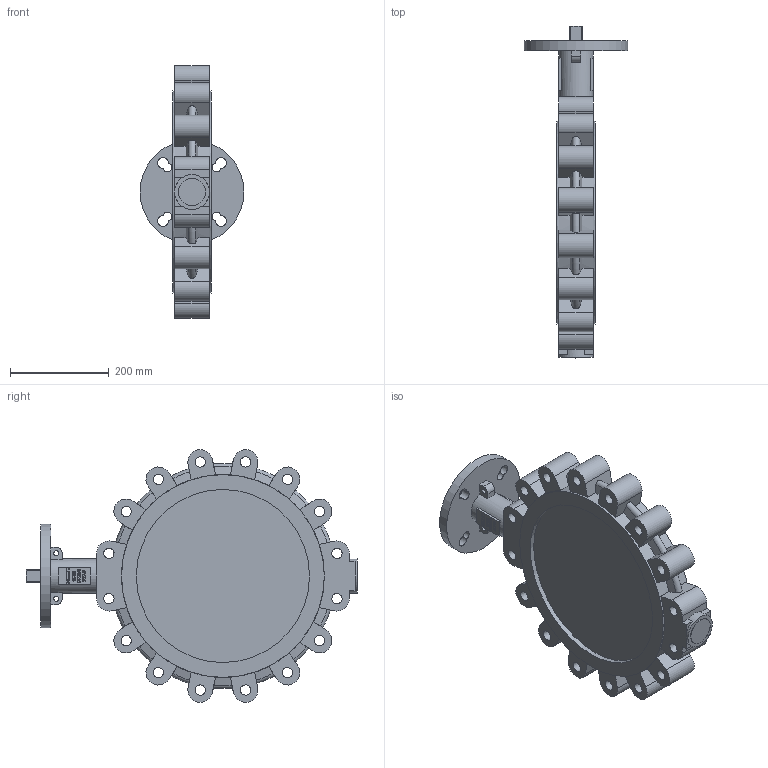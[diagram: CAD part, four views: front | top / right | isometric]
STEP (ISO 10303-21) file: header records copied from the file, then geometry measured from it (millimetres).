
FILE_DESCRIPTION(/* description */ (''),/* implementation_level */ '2;1');
FILE_NAME(/* name */ '6820-DN350-PN10-NBR - 13332851.stp',/* time_stamp */ '2024-09-06T09:42:49+02:00',/* author */ ('roger.thijssen'),/* organization */ (''),/* preprocessor_version */ 'ST-DEVELOPER v20',/* originating_system */ 'Autodesk Inventor 2024',/* authorisation */ '');
FILE_SCHEMA (('AUTOMOTIVE_DESIGN { 1 0 10303 214 3 1 1 }'));
Length unit declared in the file: millimetre
Products named in the file (1): 6820-DN350-PN16
Bounding box: 210 x 671 x 510.96 mm (x, y, z)
Volume: 12425723.4 mm3; surface area: 746680.1 mm2
Topology: 1 solids, 1 shells, 544 faces, 1505 edges, 999 vertices
Faces by surface type: plane 290, bspline 124, cylinder 83, cone 33, torus 14
Full cylindrical faces by diameter (mm): 6.647 x1, 10 x2, 20.752 x16, 55 x1, 70 x2, 210 x1, 350 x2, 410 x2
Entity records: 19787 total; most frequent: CARTESIAN_POINT 6004, ORIENTED_EDGE 3008, DIRECTION 2282, EDGE_CURVE 1504, VERTEX_POINT 999, LINE 888, VECTOR 888, AXIS2_PLACEMENT_3D 697
